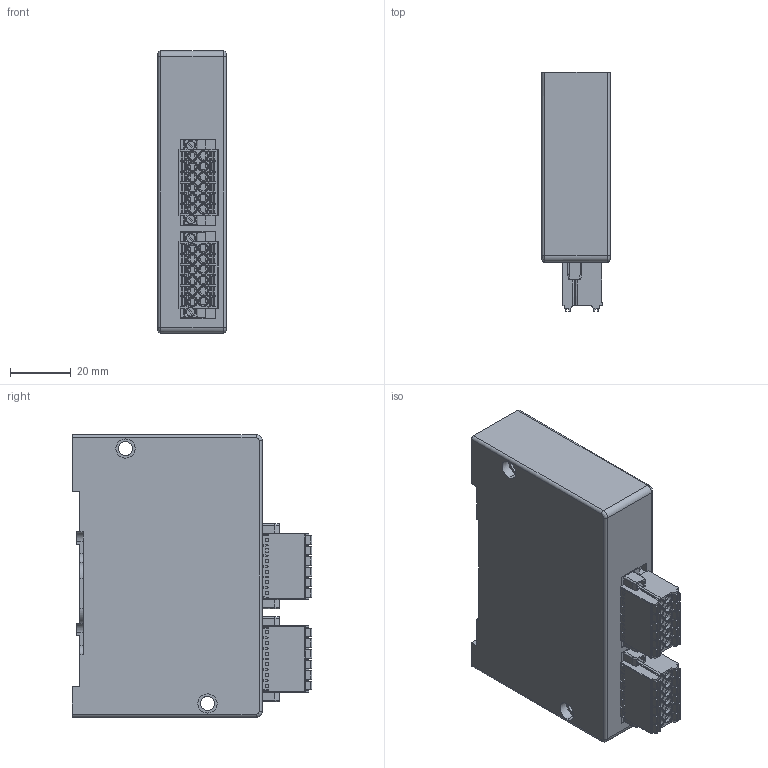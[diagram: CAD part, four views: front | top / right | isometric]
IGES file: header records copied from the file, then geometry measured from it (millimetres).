
Start section: ------------------------------------------------------------------------
Bounding box: 22.5 x 78.8 x 93 mm (x, y, z)
Volume: 131692.4 mm3; surface area: 25730.9 mm2
Topology: 1 solids, 1 shells, 1584 faces, 4144 edges, 2667 vertices
Faces by surface type: bspline 1584
